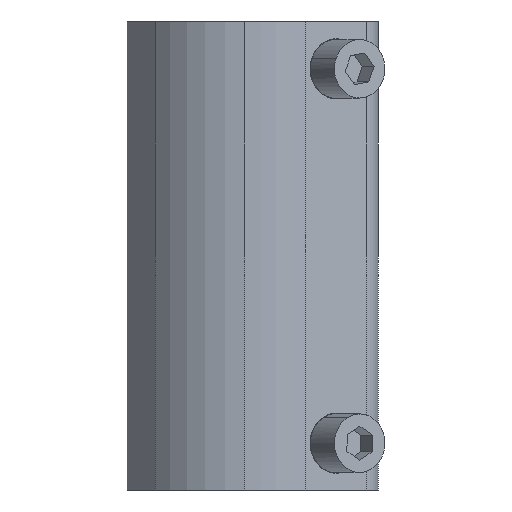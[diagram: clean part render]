
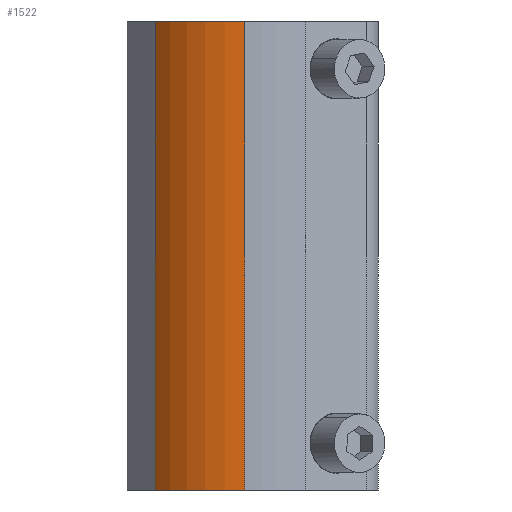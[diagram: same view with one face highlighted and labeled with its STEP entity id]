
A CAD part, left-side view. The second image highlights one B-rep face of the part: STEP entity #1522.
In plain terms, the highlighted cylindrical face has radius 10.285 mm (diameter 20.569 mm), a partial arc.
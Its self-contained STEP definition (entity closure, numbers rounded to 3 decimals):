
#20 = DIRECTION ( 'NONE',  ( 0., 0., -1. ) ) ;
#56 = ORIENTED_EDGE ( 'NONE', *, *, #2827, .F. ) ;
#266 = CYLINDRICAL_SURFACE ( 'NONE', #1315, 10.285 ) ;
#567 = DIRECTION ( 'NONE',  ( 1., 0., 0. ) ) ;
#614 = DIRECTION ( 'NONE',  ( 1., 0., 0. ) ) ;
#765 = ORIENTED_EDGE ( 'NONE', *, *, #2446, .F. ) ;
#1001 = DIRECTION ( 'NONE',  ( -1., 0., 0. ) ) ;
#1045 = CARTESIAN_POINT ( 'NONE',  ( -26.519, 22.522, -9.449 ) ) ;
#1187 = VECTOR ( 'NONE', #1590, 1000. ) ;
#1237 = VERTEX_POINT ( 'NONE', #1549 ) ;
#1248 = CARTESIAN_POINT ( 'NONE',  ( -26.519, 22.522, 30.551 ) ) ;
#1295 = ORIENTED_EDGE ( 'NONE', *, *, #1317, .T. ) ;
#1315 = AXIS2_PLACEMENT_3D ( 'NONE', #1248, #20, #1001 ) ;
#1317 = EDGE_CURVE ( 'NONE', #1326, #1765, #2116, .T. ) ;
#1326 = VERTEX_POINT ( 'NONE', #1357 ) ;
#1328 = ORIENTED_EDGE ( 'NONE', *, *, #2834, .T. ) ;
#1357 = CARTESIAN_POINT ( 'NONE',  ( -33.397, 30.168, 30.551 ) ) ;
#1365 = CARTESIAN_POINT ( 'NONE',  ( -26.519, 22.522, 30.551 ) ) ;
#1396 = CARTESIAN_POINT ( 'NONE',  ( -33.397, 30.168, -9.449 ) ) ;
#1398 = VERTEX_POINT ( 'NONE', #2358 ) ;
#1417 = VECTOR ( 'NONE', #1909, 1000. ) ;
#1522 = ADVANCED_FACE ( 'NONE', ( #2199 ), #266, .T. ) ;
#1549 = CARTESIAN_POINT ( 'NONE',  ( -36.803, 22.522, 30.551 ) ) ;
#1550 = CARTESIAN_POINT ( 'NONE',  ( -36.803, 22.522, 30.551 ) ) ;
#1590 = DIRECTION ( 'NONE',  ( 0., 0., -1. ) ) ;
#1608 = DIRECTION ( 'NONE',  ( 0., 0., 1. ) ) ;
#1632 = CARTESIAN_POINT ( 'NONE',  ( -33.397, 30.168, 30.551 ) ) ;
#1765 = VERTEX_POINT ( 'NONE', #1396 ) ;
#1793 = LINE ( 'NONE', #1550, #1187 ) ;
#1909 = DIRECTION ( 'NONE',  ( 0., 0., -1. ) ) ;
#1912 = AXIS2_PLACEMENT_3D ( 'NONE', #1365, #1608, #614 ) ;
#2041 = EDGE_LOOP ( 'NONE', ( #56, #765, #1295, #1328 ) ) ;
#2071 = CIRCLE ( 'NONE', #1912, 10.285 ) ;
#2111 = CIRCLE ( 'NONE', #2320, 10.285 ) ;
#2116 = LINE ( 'NONE', #1632, #1417 ) ;
#2199 = FACE_OUTER_BOUND ( 'NONE', #2041, .T. ) ;
#2320 = AXIS2_PLACEMENT_3D ( 'NONE', #1045, #2795, #567 ) ;
#2358 = CARTESIAN_POINT ( 'NONE',  ( -36.803, 22.522, -9.449 ) ) ;
#2446 = EDGE_CURVE ( 'NONE', #1326, #1237, #2071, .T. ) ;
#2795 = DIRECTION ( 'NONE',  ( 0., 0., 1. ) ) ;
#2827 = EDGE_CURVE ( 'NONE', #1237, #1398, #1793, .T. ) ;
#2834 = EDGE_CURVE ( 'NONE', #1765, #1398, #2111, .T. ) ;
